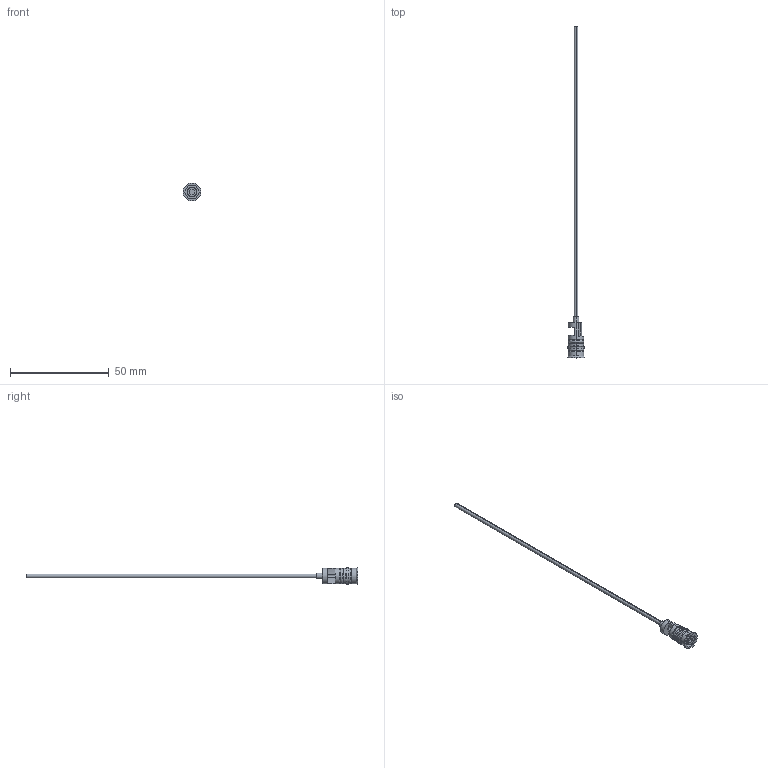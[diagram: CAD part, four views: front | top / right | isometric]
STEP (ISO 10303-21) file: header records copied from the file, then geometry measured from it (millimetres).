
FILE_DESCRIPTION (( 'STEP AP203' ), '1' );
FILE_NAME ('RF-8Fx150-2.STEP', '2015-11-25T08:45:08', ( 'Balzi' ), ( '' ), 'SwSTEP 2.0', 'SolidWorks 2015', '' );
FILE_SCHEMA (( 'CONFIG_CONTROL_DESIGN' ));
Length unit declared in the file: millimetre
Products named in the file (1): RF-8Fx150-2
Bounding box: 9 x 168 x 9 mm (x, y, z)
Volume: 864.6 mm3; surface area: 2461.4 mm2
Topology: 1 solids, 1 shells, 77 faces, 176 edges, 108 vertices
Faces by surface type: cylinder 28, plane 25, torus 12, cone 12
Entity records: 2268 total; most frequent: DIRECTION 419, CARTESIAN_POINT 381, ORIENTED_EDGE 352, EDGE_CURVE 176, AXIS2_PLACEMENT_3D 170, VERTEX_POINT 108, CIRCLE 92, EDGE_LOOP 86
